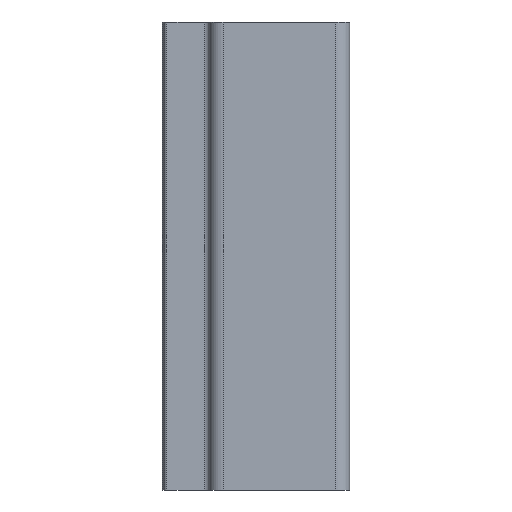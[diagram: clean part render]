
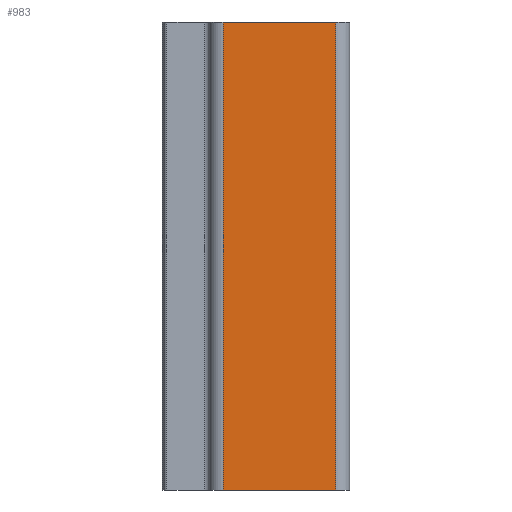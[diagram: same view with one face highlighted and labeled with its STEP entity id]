
A CAD part, left-side view. The second image highlights one B-rep face of the part: STEP entity #983.
In plain terms, the highlighted planar face has unit normal (-1, 0, 0).
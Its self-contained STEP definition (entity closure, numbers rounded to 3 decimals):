
#1 = DIRECTION ( 'NONE',  ( 0., 0., -1. ) ) ;
#19 = DIRECTION ( 'NONE',  ( 0., 0., -1. ) ) ;
#28 = LINE ( 'NONE', #781, #569 ) ;
#30 = LINE ( 'NONE', #445, #570 ) ;
#45 = VERTEX_POINT ( 'NONE', #366 ) ;
#68 = VERTEX_POINT ( 'NONE', #816 ) ;
#71 = EDGE_CURVE ( 'NONE', #68, #45, #30, .T. ) ;
#143 = VERTEX_POINT ( 'NONE', #742 ) ;
#259 = CARTESIAN_POINT ( 'NONE',  ( -15., -12., 100. ) ) ;
#304 = ORIENTED_EDGE ( 'NONE', *, *, #385, .T. ) ;
#314 = VECTOR ( 'NONE', #19, 1000. ) ;
#366 = CARTESIAN_POINT ( 'NONE',  ( -15., -12., 0. ) ) ;
#385 = EDGE_CURVE ( 'NONE', #143, #68, #28, .T. ) ;
#423 = ORIENTED_EDGE ( 'NONE', *, *, #496, .F. ) ;
#445 = CARTESIAN_POINT ( 'NONE',  ( -15., -12., 0. ) ) ;
#484 = LINE ( 'NONE', #259, #314 ) ;
#496 = EDGE_CURVE ( 'NONE', #143, #857, #791, .T. ) ;
#515 = DIRECTION ( 'NONE',  ( 0., -1., 0. ) ) ;
#524 = EDGE_LOOP ( 'NONE', ( #891, #632, #423, #304 ) ) ;
#542 = CARTESIAN_POINT ( 'NONE',  ( -15., -12., 100. ) ) ;
#556 = DIRECTION ( 'NONE',  ( 0., 1., 0. ) ) ;
#567 = CARTESIAN_POINT ( 'NONE',  ( -15., -12., 100. ) ) ;
#569 = VECTOR ( 'NONE', #1, 1000. ) ;
#570 = VECTOR ( 'NONE', #515, 1000. ) ;
#632 = ORIENTED_EDGE ( 'NONE', *, *, #968, .F. ) ;
#719 = DIRECTION ( 'NONE',  ( 1., 0., 0. ) ) ;
#742 = CARTESIAN_POINT ( 'NONE',  ( -15., 12., 100. ) ) ;
#781 = CARTESIAN_POINT ( 'NONE',  ( -15., 12., 100. ) ) ;
#788 = DIRECTION ( 'NONE',  ( 0., -1., 0. ) ) ;
#791 = LINE ( 'NONE', #567, #921 ) ;
#816 = CARTESIAN_POINT ( 'NONE',  ( -15., 12., 0. ) ) ;
#857 = VERTEX_POINT ( 'NONE', #542 ) ;
#871 = PLANE ( 'NONE',  #892 ) ;
#891 = ORIENTED_EDGE ( 'NONE', *, *, #71, .T. ) ;
#892 = AXIS2_PLACEMENT_3D ( 'NONE', #951, #719, #556 ) ;
#921 = VECTOR ( 'NONE', #788, 1000. ) ;
#948 = FACE_OUTER_BOUND ( 'NONE', #524, .T. ) ;
#951 = CARTESIAN_POINT ( 'NONE',  ( -15., -12., 100. ) ) ;
#968 = EDGE_CURVE ( 'NONE', #857, #45, #484, .T. ) ;
#983 = ADVANCED_FACE ( 'NONE', ( #948 ), #871, .F. ) ;
